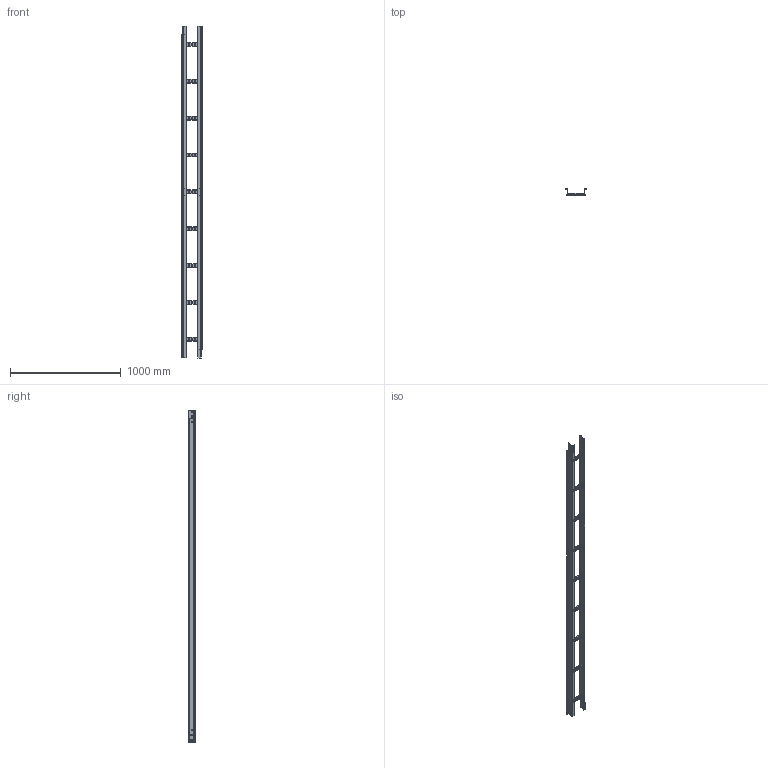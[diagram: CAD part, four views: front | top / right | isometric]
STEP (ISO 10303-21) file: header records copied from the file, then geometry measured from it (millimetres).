
FILE_DESCRIPTION (( 'STEP AP214' ), '1' );
FILE_NAME ('FRE 150X60-333 3M.STEP', '2023-06-28T11:42:22', ( '' ), ( '' ), 'SwSTEP 2.0', 'SolidWorks 2022', '' );
FILE_SCHEMA (( 'AUTOMOTIVE_DESIGN' ));
Length unit declared in the file: millimetre
Products named in the file (3): FRE 150X60-333 3M; FER_MONTANTE_GS_60x1,2; FE_RA35_GS_150
Assembly tree (11 placements, depth 2):
  FRE 150X60-333 3M
    FER_MONTANTE_GS_60x1,2  x2
    FE_RA35_GS_150  x9
Bounding box: 180.8 x 64.2 x 3000 mm (x, y, z)
Volume: 134882.2 mm3; surface area: 1513995.9 mm2
Topology: 9 solids, 13 shells, 954 faces, 2318 edges, 1424 vertices
Faces by surface type: plane 544, cylinder 262, torus 144, bspline 4
Entity records: 5993 total; most frequent: CARTESIAN_POINT 1365, DIRECTION 991, ORIENTED_EDGE 902, EDGE_CURVE 459, AXIS2_PLACEMENT_3D 361, VERTEX_POINT 292, LINE 269, VECTOR 269
